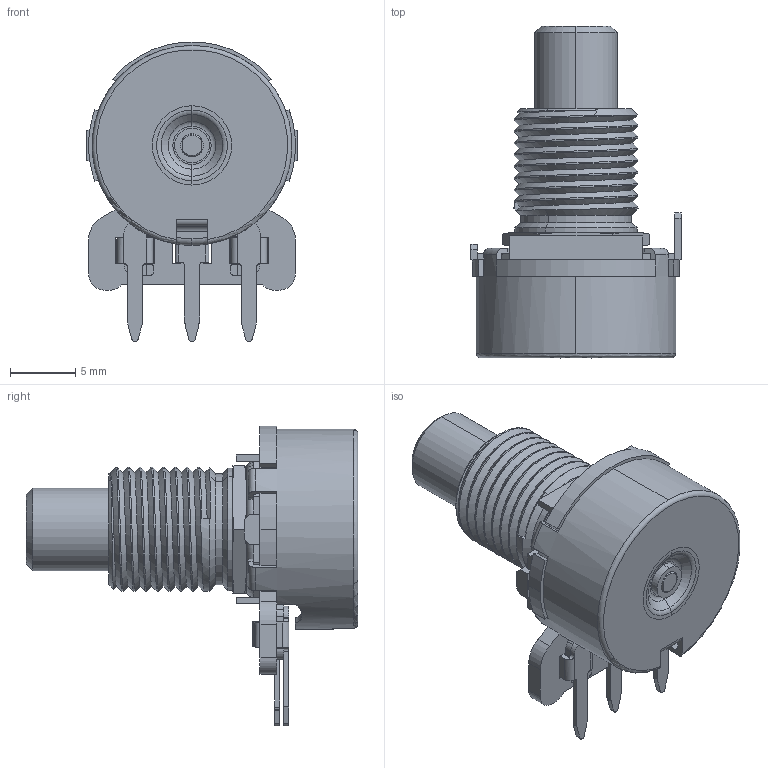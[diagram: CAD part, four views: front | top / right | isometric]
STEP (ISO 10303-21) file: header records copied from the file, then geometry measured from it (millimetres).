
FILE_DESCRIPTION (( 'STEP AP214' ), '1' );
FILE_NAME ('270X320P104B1A1.STEP', '2019-05-24T08:10:23', ( '' ), ( '' ), 'SwSTEP 2.0', 'SolidWorks 2019', '' );
FILE_SCHEMA (( 'AUTOMOTIVE_DESIGN' ));
Length unit declared in the file: millimetre
Products named in the file (10): 270 element; 270S-ER-11733-20; 270-18-020-01-37(for 270-95-016); 270E-E-2411; 270X320P104B1A1; 270-13-127-06-12(for 270-95-016); 270-07-014-01-53; 270-40-060-02-42; 270-01-125-30-01G; 270-95-016-00-00
Assembly tree (9 placements, depth 3):
  270X320P104B1A1
    270-40-060-02-42
    270-95-016-00-00
      270-01-125-30-01G
      270 element
      270-13-127-06-12(for 270-95-016)
      270-18-020-01-37(for 270-95-016)
    270-07-014-01-53
    270E-E-2411
    270S-ER-11733-20
Bounding box: 16.16 x 25.48 x 23.01 mm (x, y, z)
Volume: 1641 mm3; surface area: 3718.2 mm2
Topology: 9 solids, 9 shells, 587 faces, 1635 edges, 1068 vertices
Faces by surface type: plane 314, cylinder 197, cone 46, torus 28, bspline 2
Entity records: 20479 total; most frequent: CARTESIAN_POINT 4791, ORIENTED_EDGE 3270, DIRECTION 3189, EDGE_CURVE 1635, AXIS2_PLACEMENT_3D 1106, VERTEX_POINT 1068, LINE 977, VECTOR 977
